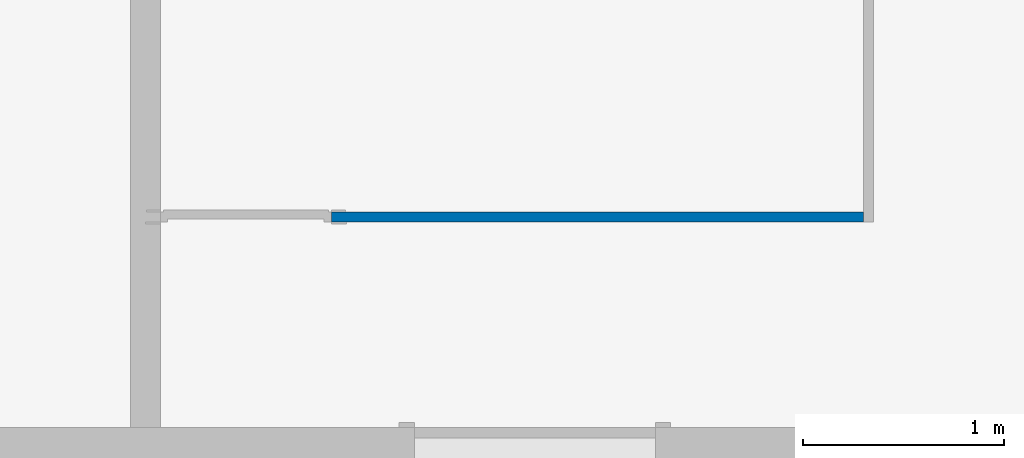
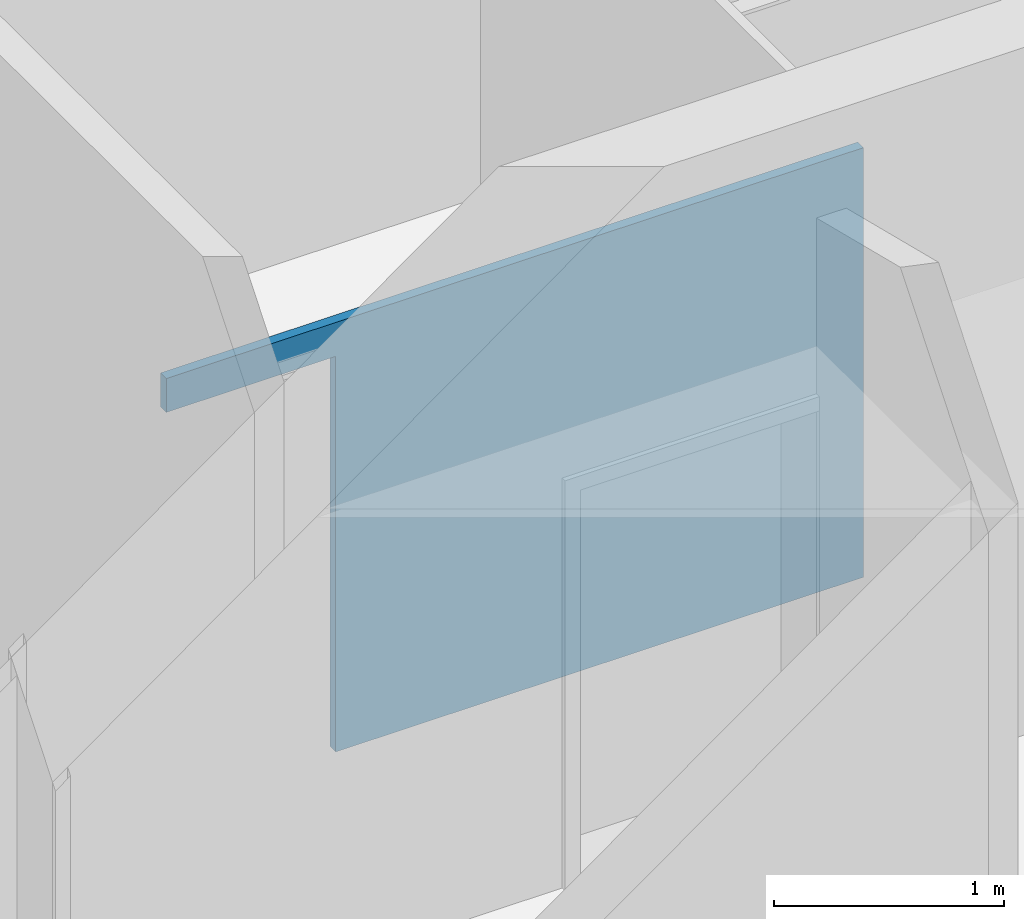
# One storey, part 131 of 153: 1 wall, 1 opening.
"""IFC4 building model written with IfcOpenShell, lengths in metres."""

import ifcopenshell
import ifcopenshell.guid

model = None  # the IFC model being written
_history = None  # IfcOwnerHistory: only IFC2X3 demands one
_inside = {}  # id of a spatial element -> (the spatial element, [elements in it])
_under = {}  # id of a project, library or spatial element -> (it, [spatial elements below it])
_declared = {}  # id of a project -> (the project, [libraries it declares])
_typed = {}  # id of a type object -> (the type object, [elements of that type])
_made_of = {}  # id of a material, layer set ... -> (it, [elements and type objects made of it])


def new_model(schema):
    """Start an empty IFC model of exactly this schema.

    Asked for "IFC4X3", IfcOpenShell would pick the latest addendum, in which some entities
    have other attributes; the version numbers below select the first issue.
    IFC2X3 requires an IfcOwnerHistory on every rooted entity: one is made here for all.
    """
    global model, _history
    if schema == "IFC4X3":
        model = ifcopenshell.file(schema_version=(4, 3, 0, 0))
    else:
        model = ifcopenshell.file(schema=schema)
    _inside.clear()
    _under.clear()
    _declared.clear()
    _typed.clear()
    _made_of.clear()
    _history = None
    if model.schema == "IFC2X3":
        org = make("IfcOrganization", Name="unknown")
        user = make(
            "IfcPersonAndOrganization",
            ThePerson=make("IfcPerson", FamilyName="unknown"),
            TheOrganization=org,
        )
        app = make(
            "IfcApplication",
            ApplicationDeveloper=org,
            Version="unknown",
            ApplicationFullName="unknown",
            ApplicationIdentifier="unknown",
        )
        _history = make(
            "IfcOwnerHistory",
            OwningUser=user,
            OwningApplication=app,
            ChangeAction="ADDED",
            CreationDate=0,
        )
    return model


def make(cls, **values):
    """One entity of the class cls with the attributes given. An attribute that is None is left unset."""
    return model.create_entity(
        cls, **{name: value for name, value in values.items() if value is not None}
    )


def entity(cls, *values):
    """Any entity or typed value of the class cls, its attributes in the order of the schema. None: left unset."""
    e = model.create_entity(cls)
    for i, value in enumerate(values):
        if value is not None:
            e[i] = value
    return e


def rooted(cls, **values):
    """An entity with a GlobalId (a new one), such as an element, a storey or a relation."""
    return make(cls, GlobalId=ifcopenshell.guid.new(), OwnerHistory=_history, **values)


def si_unit(unit_type, name, prefix=None):
    """IfcSIUnit, for example si_unit("LENGTHUNIT", "METRE", prefix="MILLI")."""
    return make("IfcSIUnit", UnitType=unit_type, Prefix=prefix, Name=name)


def converted_unit(unit_type, name, factor, base, dimensions=None, offset=None):
    """IfcConversionBasedUnit, such as the inch: factor (a typed value) times the base unit."""
    return make(
        "IfcConversionBasedUnit"
        if offset is None
        else "IfcConversionBasedUnitWithOffset",
        ConversionOffset=offset,
        Dimensions=None
        if dimensions is None
        else entity("IfcDimensionalExponents", *dimensions),
        UnitType=unit_type,
        Name=name,
        ConversionFactor=make(
            "IfcMeasureWithUnit", ValueComponent=factor, UnitComponent=base
        ),
    )


def derived_unit(unit_type, elements):
    """IfcDerivedUnit: a product of units, each with its exponent."""
    return make(
        "IfcDerivedUnit",
        Elements=[
            make("IfcDerivedUnitElement", Unit=unit, Exponent=power)
            for unit, power in elements
        ],
        UnitType=unit_type,
    )


def assignment(units):
    """IfcUnitAssignment: the units of a project."""
    return None if units is None else make("IfcUnitAssignment", Units=units)


def point(xyz):
    """IfcCartesianPoint."""
    return None if xyz is None else make("IfcCartesianPoint", Coordinates=xyz)


def direction(xyz):
    """IfcDirection."""
    return None if xyz is None else make("IfcDirection", DirectionRatios=xyz)


def frame(location, z_axis=None, x_axis=None):
    """IfcAxis2Placement3D, a coordinate frame: its origin and axes. An axis left out is left unset."""
    return make(
        "IfcAxis2Placement3D",
        Location=point(location),
        Axis=direction(z_axis),
        RefDirection=direction(x_axis),
    )


def origin():
    """The frame at (0, 0, 0) with its axes left unset."""
    return frame((0.0, 0.0, 0.0))


def place(relative_to, where):
    """IfcLocalPlacement: puts the frame where relative to a parent placement (None: the world)."""
    return make(
        "IfcLocalPlacement", PlacementRelTo=relative_to, RelativePlacement=where
    )


def context(
    kind, dimensions, precision=None, world=None, true_north=None, identifier=None
):
    """IfcGeometricRepresentationContext, for example the 3D "Model" context."""
    return make(
        "IfcGeometricRepresentationContext",
        ContextIdentifier=identifier,
        ContextType=kind,
        CoordinateSpaceDimension=dimensions,
        Precision=precision,
        WorldCoordinateSystem=world,
        TrueNorth=true_north,
    )


def subcontext(parent, identifier, kind, view, scale=None):
    """IfcGeometricRepresentationSubContext, for example "Body" below "Model"."""
    return make(
        "IfcGeometricRepresentationSubContext",
        ContextIdentifier=identifier,
        ContextType=kind,
        ParentContext=parent,
        TargetScale=scale,
        TargetView=view,
    )


def project(units=None, contexts=None):
    """IfcProject with its units and contexts."""
    return rooted(
        "IfcProject",
        Name="project",
        RepresentationContexts=contexts,
        UnitsInContext=assignment(units),
    )


def spatial(cls, under=None, at=None, **own):
    """A site, building, storey or space (cls), placed at a placement, below another one or the project."""
    s = rooted(cls, ObjectPlacement=at, **own)
    if under is not None:
        _under.setdefault(under.id(), (under, []))[1].append(s)
    return s


def point_list(points):
    """IfcCartesianPointList2D or 3D."""
    cls = (
        "IfcCartesianPointList2D" if len(points[0]) == 2 else "IfcCartesianPointList3D"
    )
    return make(cls, CoordList=points)


def indexed_curve(points, segments=None, self_intersect=None):
    """IfcIndexedPolyCurve: lines and arcs through numbered points (the first is 1)."""
    return make(
        "IfcIndexedPolyCurve",
        Points=point_list(points),
        Segments=segments,
        SelfIntersect=self_intersect,
    )


def outline(outer, holes=None, kind="AREA"):
    """IfcArbitraryClosedProfileDef: a profile drawn as a closed curve; with holes, ...WithVoids."""
    if holes is None:
        return make("IfcArbitraryClosedProfileDef", ProfileType=kind, OuterCurve=outer)
    return make(
        "IfcArbitraryProfileDefWithVoids",
        ProfileType=kind,
        OuterCurve=outer,
        InnerCurves=holes,
    )


def extrude(swept, where, along, depth):
    """IfcExtrudedAreaSolid: the profile swept, set in the frame where, extruded along a direction by depth."""
    return make(
        "IfcExtrudedAreaSolid",
        SweptArea=swept,
        Position=where,
        ExtrudedDirection=direction(along),
        Depth=depth,
    )


def polygons(points, faces, closed=None, point_numbers=None):
    """IfcPolygonalFaceSet: a face is its outer loop, then its inner loops; points numbered from 1."""
    made = []
    for loops in faces:
        if len(loops) == 1:
            made.append(make("IfcIndexedPolygonalFace", CoordIndex=loops[0]))
        else:
            made.append(
                make(
                    "IfcIndexedPolygonalFaceWithVoids",
                    CoordIndex=loops[0],
                    InnerCoordIndices=loops[1:],
                )
            )
    return make(
        "IfcPolygonalFaceSet",
        Coordinates=point_list(points),
        Closed=closed,
        Faces=made,
        PnIndex=point_numbers,
    )


def shape(context_of_items, identifier, shape_type, items):
    """IfcShapeRepresentation: the items that make up one representation, for example the "Body"."""
    return make(
        "IfcShapeRepresentation",
        ContextOfItems=context_of_items,
        RepresentationIdentifier=identifier,
        RepresentationType=shape_type,
        Items=items,
    )


def material(Name=None, Category=None):
    """IfcMaterial."""
    return make("IfcMaterial", Name=Name, Category=Category)


def made_of(thing, what):
    """Note that an element or type object is made of a material, layer set ...; save() writes the relation."""
    if what is not None:
        _made_of.setdefault(what.id(), (what, []))[1].append(thing)
    return thing


def type_object(cls, material=None, **own):
    """A type object (cls), such as IfcWallType, which elements share."""
    return made_of(rooted(cls, **own), material)


def element(
    cls,
    number,
    at=None,
    inside=None,
    cuts=None,
    type_object=None,
    material=None,
    context=None,
    identifier="Body",
    shape_type=None,
    held_by="IfcProductDefinitionShape",
    body=None,
    shapes=None,
    **own,
):
    """One element of the class cls, such as IfcWall. Its Tag is "e" and its number.

    at: its placement. inside: the storey or other place that contains it. cuts: it is an
    opening in that element (IfcRelVoidsElement). A single representation is given by context,
    identifier, shape_type and body (its items); several are given by shapes. held_by: the class
    of the entity that holds the representations. save() writes the other relations.
    """
    e = rooted(cls, Tag="e%d" % number, ObjectPlacement=at, **own)
    if body is not None:
        shapes = [shape(context, identifier, shape_type, body)]
    if shapes is not None:
        e.Representation = make(held_by, Representations=shapes)
    if inside is not None:
        _inside.setdefault(inside.id(), (inside, []))[1].append(e)
    if cuts is not None:
        rooted(
            "IfcRelVoidsElement", RelatingBuildingElement=cuts, RelatedOpeningElement=e
        )
    if type_object is not None:
        _typed.setdefault(type_object.id(), (type_object, []))[1].append(e)
    return made_of(e, material)


def aggregate(whole, parts):
    """IfcRelAggregates: a whole, such as a stair, and the parts it consists of."""
    return rooted("IfcRelAggregates", RelatingObject=whole, RelatedObjects=parts)


def save(model, path):
    """Write the relations noted so far, then the file.

    IfcRelAggregates (storeys below a building ...), IfcRelContainedInSpatialStructure (elements
    in a storey), IfcRelDefinesByType, IfcRelAssociatesMaterial and IfcRelDeclares: one each for
    every whole, place, type object, material and project.
    """
    for whole, parts in _under.values():
        aggregate(whole, parts)
    for where, things in _inside.values():
        rooted(
            "IfcRelContainedInSpatialStructure",
            RelatedElements=things,
            RelatingStructure=where,
        )
    for kind, things in _typed.values():
        rooted("IfcRelDefinesByType", RelatedObjects=things, RelatingType=kind)
    for what, things in _made_of.values():
        rooted("IfcRelAssociatesMaterial", RelatedObjects=things, RelatingMaterial=what)
    for by, libraries in _declared.values():
        rooted("IfcRelDeclares", RelatingContext=by, RelatedDefinitions=libraries)
    model.write(path)


model = new_model("IFC4")

# Units and contexts
model_context = context("Model", 3, precision=1e-05, world=origin(), true_north=direction((6.123031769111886e-17, 1.0)))
body_context = subcontext(model_context, "Body", "Model", "MODEL_VIEW")
ifc_project = project(units=[si_unit("LENGTHUNIT", "METRE"), si_unit("AREAUNIT", "SQUARE_METRE"), si_unit("VOLUMEUNIT", "CUBIC_METRE"), converted_unit("PLANEANGLEUNIT", "DEGREE", entity("IfcRatioMeasure", 0.017453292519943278), si_unit("PLANEANGLEUNIT", "RADIAN"), dimensions=[0, 0, 0, 0, 0, 0, 0]), si_unit("MASSUNIT", "GRAM", prefix="KILO"), derived_unit("MASSDENSITYUNIT", [(si_unit("MASSUNIT", "GRAM", prefix="KILO"), 1), (si_unit("LENGTHUNIT", "METRE"), -3)]), derived_unit("MOMENTOFINERTIAUNIT", [(si_unit("LENGTHUNIT", "METRE"), 4)]), si_unit("TIMEUNIT", "SECOND"), si_unit("FREQUENCYUNIT", "HERTZ"), si_unit("THERMODYNAMICTEMPERATUREUNIT", "DEGREE_CELSIUS"), derived_unit("THERMALTRANSMITTANCEUNIT", [(si_unit("MASSUNIT", "GRAM", prefix="KILO"), 1), (si_unit("THERMODYNAMICTEMPERATUREUNIT", "KELVIN"), -1), (si_unit("TIMEUNIT", "SECOND"), -3)]), derived_unit("VOLUMETRICFLOWRATEUNIT", [(si_unit("LENGTHUNIT", "METRE"), 3), (si_unit("TIMEUNIT", "SECOND"), -1)]), derived_unit("MASSFLOWRATEUNIT", [(si_unit("MASSUNIT", "GRAM", prefix="KILO"), 1), (si_unit("TIMEUNIT", "SECOND"), -1)]), derived_unit("ROTATIONALFREQUENCYUNIT", [(si_unit("TIMEUNIT", "SECOND"), -1)]), si_unit("ELECTRICCURRENTUNIT", "AMPERE"), si_unit("ELECTRICVOLTAGEUNIT", "VOLT"), si_unit("POWERUNIT", "WATT"), si_unit("FORCEUNIT", "NEWTON", prefix="KILO"), si_unit("ILLUMINANCEUNIT", "LUX"), si_unit("LUMINOUSFLUXUNIT", "LUMEN"), si_unit("LUMINOUSINTENSITYUNIT", "CANDELA"), derived_unit("USERDEFINED", [(si_unit("MASSUNIT", "GRAM", prefix="KILO"), -1), (si_unit("LENGTHUNIT", "METRE"), -2), (si_unit("TIMEUNIT", "SECOND"), 3), (si_unit("LUMINOUSFLUXUNIT", "LUMEN"), 1)]), derived_unit("SOUNDPOWERUNIT", [(si_unit("MASSUNIT", "GRAM", prefix="KILO"), 1), (si_unit("LENGTHUNIT", "METRE"), 2), (si_unit("TIMEUNIT", "SECOND"), -3)]), derived_unit("SOUNDPRESSUREUNIT", [(si_unit("MASSUNIT", "GRAM", prefix="KILO"), 1), (si_unit("LENGTHUNIT", "METRE"), -1), (si_unit("TIMEUNIT", "SECOND"), -2)]), derived_unit("LINEARVELOCITYUNIT", [(si_unit("LENGTHUNIT", "METRE"), 1), (si_unit("TIMEUNIT", "SECOND"), -1)]), si_unit("PRESSUREUNIT", "PASCAL"), derived_unit("USERDEFINED", [(si_unit("LENGTHUNIT", "METRE"), -2), (si_unit("MASSUNIT", "GRAM", prefix="KILO"), 1), (si_unit("TIMEUNIT", "SECOND"), -2)]), derived_unit("LINEARFORCEUNIT", [(si_unit("MASSUNIT", "GRAM", prefix="KILO"), 1), (si_unit("LENGTHUNIT", "METRE"), 1), (si_unit("TIMEUNIT", "SECOND"), -2), (si_unit("LENGTHUNIT", "METRE"), -1)]), derived_unit("PLANARFORCEUNIT", [(si_unit("MASSUNIT", "GRAM", prefix="KILO"), 1), (si_unit("LENGTHUNIT", "METRE"), 1), (si_unit("TIMEUNIT", "SECOND"), -2), (si_unit("LENGTHUNIT", "METRE"), -2)])], contexts=[model_context])

# Site, building, storey
site_placement = place(None, origin())
site = spatial("IfcSite", under=ifc_project, at=site_placement, Name="Superficie", CompositionType="ELEMENT")
building_placement = place(site_placement, origin())
building = spatial("IfcBuilding", under=site, at=building_placement, CompositionType="ELEMENT")
storey_placement = place(building_placement, frame((0.0, 0.0, 3.5999999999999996)))
storey = spatial("IfcBuildingStorey", under=building, at=storey_placement, Name="Nivel 1", CompositionType="ELEMENT", Elevation=3.5999999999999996)

# Wall, opening
ifc_material = material(Name="Muro por defecto", Category="Varios")
wall_type = type_object("IfcWallType", Name="Muro básico:Por defecto - 5 cm 2", PredefinedType="STANDARD")
wall_placement = place(storey_placement, frame((12.836799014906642, 11.780829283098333, 0.5200000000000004), z_axis=(0.0, 0.0, 1.0), x_axis=(-1.0, 0.0, 0.0)))
wall = element("IfcWall", 1, at=wall_placement, inside=storey, type_object=wall_type, material=ifc_material, Name="Muro básico:Por defecto - 5 cm 2", ObjectType="Muro básico:Por defecto - 5 cm 2", PredefinedType="NOTDEFINED", context=body_context, shape_type="Tessellation", body=[
    polygons([(3.4999999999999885, -0.02499999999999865, 2.2799999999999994), (8.597642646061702e-16, -0.02499999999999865, 2.2799999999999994), (8.597642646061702e-16, -0.02499999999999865, -5.414335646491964e-16), (2.649999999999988, -0.02499999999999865, -5.414335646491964e-16), (2.649999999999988, -0.02499999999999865, 2.0999999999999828), (3.4999999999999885, -0.02499999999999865, 2.0999999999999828), (7.09366052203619e-16, 0.025000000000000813, 2.2799999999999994), (3.499999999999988, 0.025000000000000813, 2.2799999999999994), (3.499999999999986, 0.025000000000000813, 2.0999999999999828), (2.649999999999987, 0.025000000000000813, 2.0999999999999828), (2.649999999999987, 0.025000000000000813, -5.414335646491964e-16), (7.09366052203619e-16, 0.025000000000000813, -5.414335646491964e-16)], [[[1, 2, 3, 4, 5, 6]], [[7, 8, 9, 10, 11, 12]], [[2, 1, 8, 7]], [[3, 2, 7, 12]], [[8, 1, 6, 9]], [[5, 10, 9, 6]], [[10, 5, 4, 11]], [[3, 12, 11, 4]]], closed=True),
])
opening_placement = place(wall_placement, frame((3.499999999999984, 0.024999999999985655, 0.0)))
element("IfcOpeningElement", 2, at=opening_placement, cuts=wall, Name="Puerta de 1 hoja:85 x 210 cm 2:1", PredefinedType="OPENING", context=body_context, shape_type="SweptSolid", body=[
    extrude(outline(indexed_curve([(0.0, -1.1762203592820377e-30), (2.099999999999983, -1.1762203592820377e-30), (2.099999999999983, 0.8499999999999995), (0.0, 0.8499999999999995), (0.0, -1.1762203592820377e-30)], self_intersect=False)), frame((0.0, 0.0, 0.0), z_axis=(0.0, -1.0, 0.0), x_axis=(0.0, 0.0, 1.0)), (0.0, 0.0, 1.0), 0.05),
])

save(model, "model.ifc")
